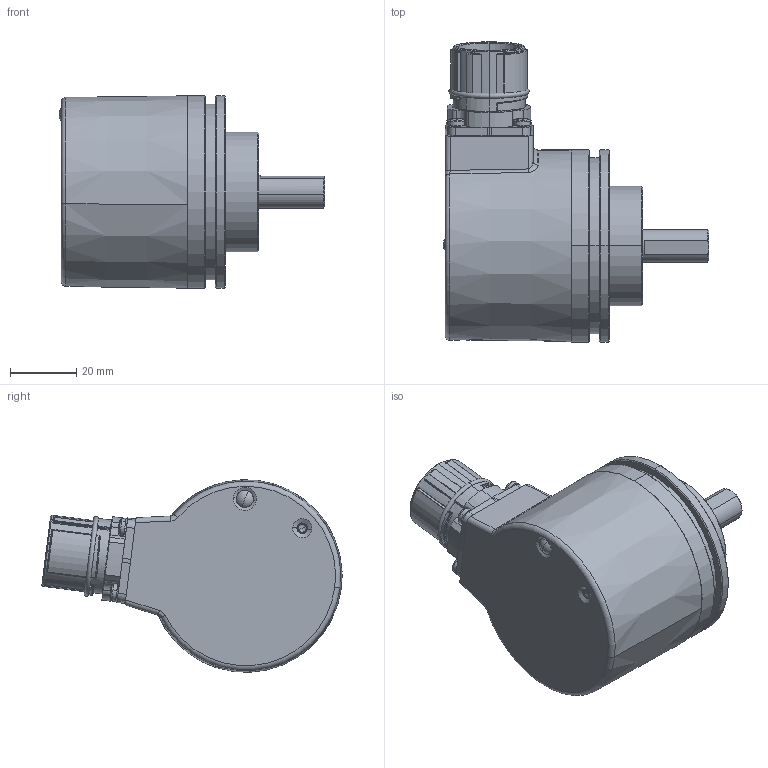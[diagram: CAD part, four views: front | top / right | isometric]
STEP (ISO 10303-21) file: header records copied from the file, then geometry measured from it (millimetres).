
FILE_DESCRIPTION (( 'STEP AP214' ), '1' );
FILE_NAME ('8.F5863.12X4.XXXX.STEP', '2014-12-12T09:11:47', ( 'HeirlerN' ), ( 'Microsoft' ), 'SwSTEP 2.0', 'SolidWorks 2013', '' );
FILE_SCHEMA (( 'AUTOMOTIVE_DESIGN' ));
Length unit declared in the file: millimetre
Products named in the file (1): 8.F5863.12X4.XXXX
Bounding box: 80.1 x 90.44 x 58 mm (x, y, z)
Surface area: 24716 mm2 (no closed solid volume)
Topology: 0 solids, 24 shells, 459 faces, 1239 edges, 766 vertices
Faces by surface type: cylinder 184, plane 112, sphere 54, cone 40, torus 39, bspline 30
Entity records: 20225 total; most frequent: CARTESIAN_POINT 3743, DIRECTION 2631, ORIENTED_EDGE 2184, EDGE_CURVE 1201, AXIS2_PLACEMENT_3D 1109, VERTEX_POINT 759, CIRCLE 679, EDGE_LOOP 508
